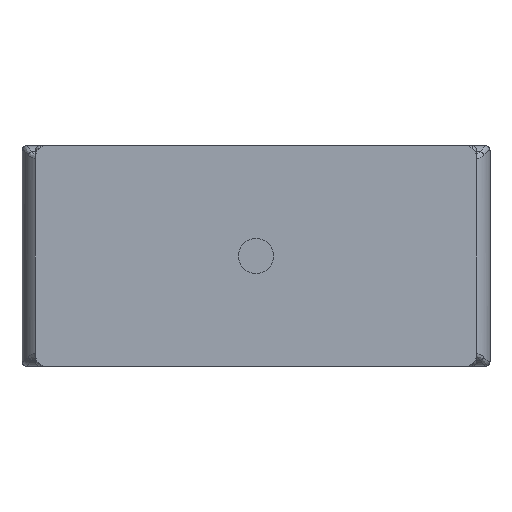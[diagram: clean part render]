
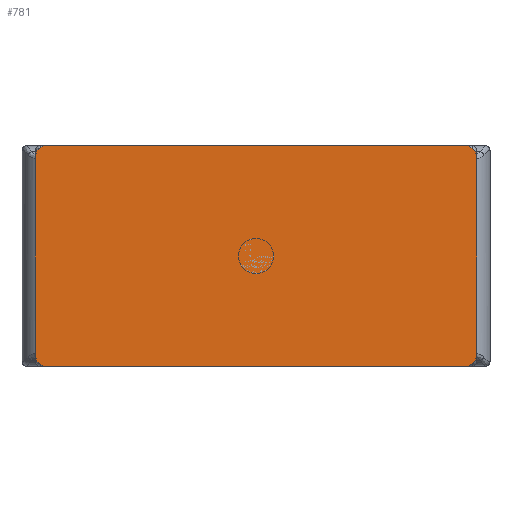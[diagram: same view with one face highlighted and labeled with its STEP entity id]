
A CAD part, front view. The second image highlights one B-rep face of the part: STEP entity #781.
In plain terms, the highlighted planar face has unit normal (0, -1, 0).
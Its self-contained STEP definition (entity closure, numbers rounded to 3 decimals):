
#123 = CARTESIAN_POINT ( 'NONE',  ( 70.315, -73.107, 164.534 ) ) ;
#474 = FACE_OUTER_BOUND ( 'NONE', #4997, .T. ) ;
#521 = DIRECTION ( 'NONE',  ( 0., 0., -1. ) ) ;
#781 = ADVANCED_FACE ( 'NONE', ( #474 ), #12052, .F. ) ;
#827 = VERTEX_POINT ( 'NONE', #12228 ) ;
#966 = ORIENTED_EDGE ( 'NONE', *, *, #16668, .T. ) ;
#967 = DIRECTION ( 'NONE',  ( 0., 0., 1. ) ) ;
#1278 = CIRCLE ( 'NONE', #10986, 5. ) ;
#1298 = DIRECTION ( 'NONE',  ( 0., 0., 1. ) ) ;
#1847 = VERTEX_POINT ( 'NONE', #6973 ) ;
#1939 = VERTEX_POINT ( 'NONE', #7031 ) ;
#2499 = DIRECTION ( 'NONE',  ( 0., 1., 0. ) ) ;
#2583 = CARTESIAN_POINT ( 'NONE',  ( 75.315, -73.107, 264.534 ) ) ;
#2628 = EDGE_CURVE ( 'NONE', #14596, #15182, #16488, .T. ) ;
#2936 = DIRECTION ( 'NONE',  ( 0., 0., 1. ) ) ;
#3207 = LINE ( 'NONE', #8600, #8616 ) ;
#3359 = CARTESIAN_POINT ( 'NONE',  ( 75.315, -73.107, 169.534 ) ) ;
#4694 = VECTOR ( 'NONE', #14967, 1000. ) ;
#4983 = CIRCLE ( 'NONE', #13857, 5. ) ;
#4997 = EDGE_LOOP ( 'NONE', ( #12124, #966, #10980, #8149, #14530, #12595, #9612, #8596 ) ) ;
#5120 = CARTESIAN_POINT ( 'NONE',  ( -124.685, -73.107, 264.534 ) ) ;
#5318 = CARTESIAN_POINT ( 'NONE',  ( 70.315, -73.107, 169.534 ) ) ;
#5779 = VECTOR ( 'NONE', #14871, 1000. ) ;
#5906 = AXIS2_PLACEMENT_3D ( 'NONE', #5120, #2499, #967 ) ;
#5997 = CARTESIAN_POINT ( 'NONE',  ( 70.315, -73.107, 259.534 ) ) ;
#6237 = VECTOR ( 'NONE', #521, 1000. ) ;
#6649 = EDGE_CURVE ( 'NONE', #1939, #1847, #11477, .T. ) ;
#6735 = EDGE_CURVE ( 'NONE', #11135, #15958, #13667, .T. ) ;
#6747 = AXIS2_PLACEMENT_3D ( 'NONE', #5997, #13016, #10091 ) ;
#6973 = CARTESIAN_POINT ( 'NONE',  ( 70.315, -73.107, 264.534 ) ) ;
#7031 = CARTESIAN_POINT ( 'NONE',  ( 75.315, -73.107, 259.534 ) ) ;
#8149 = ORIENTED_EDGE ( 'NONE', *, *, #12635, .T. ) ;
#8333 = CARTESIAN_POINT ( 'NONE',  ( -124.685, -73.107, 259.534 ) ) ;
#8429 = CARTESIAN_POINT ( 'NONE',  ( -119.685, -73.107, 169.534 ) ) ;
#8596 = ORIENTED_EDGE ( 'NONE', *, *, #6649, .T. ) ;
#8600 = CARTESIAN_POINT ( 'NONE',  ( -124.685, -73.107, 264.534 ) ) ;
#8616 = VECTOR ( 'NONE', #9775, 1000. ) ;
#9122 = EDGE_CURVE ( 'NONE', #1939, #12715, #9253, .T. ) ;
#9253 = LINE ( 'NONE', #2583, #4694 ) ;
#9586 = DIRECTION ( 'NONE',  ( 0., -1., 0. ) ) ;
#9599 = CIRCLE ( 'NONE', #15480, 5. ) ;
#9612 = ORIENTED_EDGE ( 'NONE', *, *, #9122, .F. ) ;
#9775 = DIRECTION ( 'NONE',  ( 1., 0., 0. ) ) ;
#10091 = DIRECTION ( 'NONE',  ( 0., 0., 1. ) ) ;
#10920 = DIRECTION ( 'NONE',  ( 0., 0., 1. ) ) ;
#10980 = ORIENTED_EDGE ( 'NONE', *, *, #6735, .T. ) ;
#10986 = AXIS2_PLACEMENT_3D ( 'NONE', #8429, #14228, #2936 ) ;
#11135 = VERTEX_POINT ( 'NONE', #8333 ) ;
#11477 = CIRCLE ( 'NONE', #6747, 5. ) ;
#12052 = PLANE ( 'NONE',  #5906 ) ;
#12124 = ORIENTED_EDGE ( 'NONE', *, *, #12612, .F. ) ;
#12228 = CARTESIAN_POINT ( 'NONE',  ( -119.685, -73.107, 264.534 ) ) ;
#12508 = CARTESIAN_POINT ( 'NONE',  ( -119.685, -73.107, 164.534 ) ) ;
#12595 = ORIENTED_EDGE ( 'NONE', *, *, #15775, .T. ) ;
#12612 = EDGE_CURVE ( 'NONE', #827, #1847, #3207, .T. ) ;
#12635 = EDGE_CURVE ( 'NONE', #15958, #14596, #1278, .T. ) ;
#12715 = VERTEX_POINT ( 'NONE', #3359 ) ;
#12814 = CARTESIAN_POINT ( 'NONE',  ( -124.685, -73.107, 264.534 ) ) ;
#13016 = DIRECTION ( 'NONE',  ( 0., -1., 0. ) ) ;
#13667 = LINE ( 'NONE', #12814, #6237 ) ;
#13857 = AXIS2_PLACEMENT_3D ( 'NONE', #17868, #9586, #1298 ) ;
#14228 = DIRECTION ( 'NONE',  ( 0., -1., 0. ) ) ;
#14530 = ORIENTED_EDGE ( 'NONE', *, *, #2628, .T. ) ;
#14596 = VERTEX_POINT ( 'NONE', #12508 ) ;
#14871 = DIRECTION ( 'NONE',  ( 1., 0., 0. ) ) ;
#14967 = DIRECTION ( 'NONE',  ( 0., 0., -1. ) ) ;
#15182 = VERTEX_POINT ( 'NONE', #123 ) ;
#15480 = AXIS2_PLACEMENT_3D ( 'NONE', #5318, #16645, #10920 ) ;
#15775 = EDGE_CURVE ( 'NONE', #15182, #12715, #9599, .T. ) ;
#15958 = VERTEX_POINT ( 'NONE', #17284 ) ;
#16488 = LINE ( 'NONE', #17404, #5779 ) ;
#16645 = DIRECTION ( 'NONE',  ( 0., -1., 0. ) ) ;
#16668 = EDGE_CURVE ( 'NONE', #827, #11135, #4983, .T. ) ;
#17284 = CARTESIAN_POINT ( 'NONE',  ( -124.685, -73.107, 169.534 ) ) ;
#17404 = CARTESIAN_POINT ( 'NONE',  ( -124.685, -73.107, 164.534 ) ) ;
#17868 = CARTESIAN_POINT ( 'NONE',  ( -119.685, -73.107, 259.534 ) ) ;
